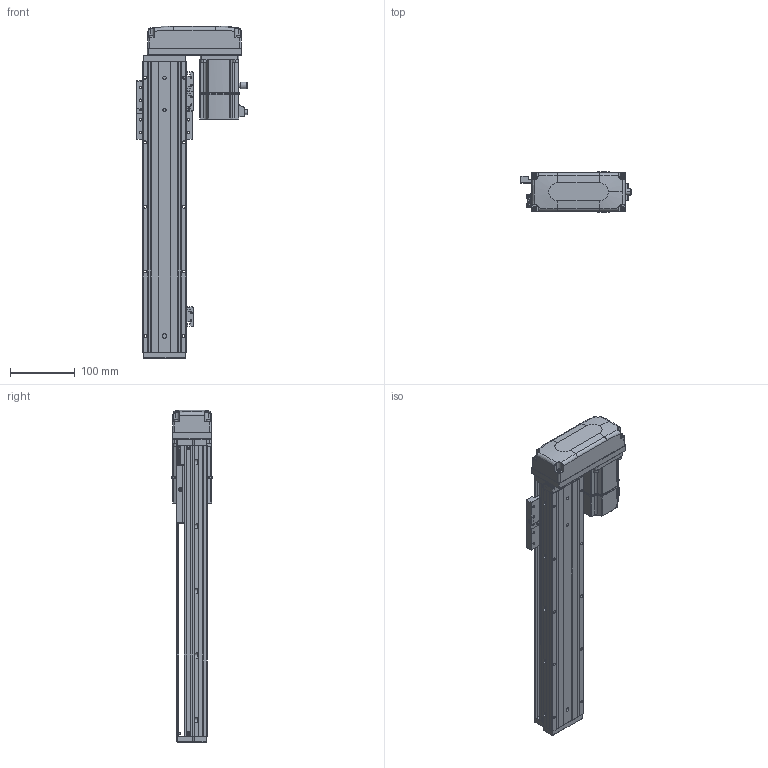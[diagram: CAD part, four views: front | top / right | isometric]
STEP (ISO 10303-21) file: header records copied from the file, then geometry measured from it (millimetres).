
FILE_DESCRIPTION (( 'STEP AP203' ), '1' );
FILE_NAME ('KTHAL60-300-BL-M20-C4L.step', '2022-12-16T02:05:59', ( '微软用户' ), ( '微软中国' ), 'SwSTEP 2.0', 'SolidWorks 2020', '' );
FILE_SCHEMA (( 'CONFIG_CONTROL_DESIGN' ));
Length unit declared in the file: millimetre
Products named in the file (17): KTHA60-005; GBT77-2000M3-3; GB¨uT 70.2-M3¡Á5_M3¡Á6; GBT 70.1-M3℅6; GBT 70.3-M3℅6; CTHA60-016; EE_SX911P_R; _X2_4E0983F1_X0_200W_1; KTHA60-001_450; CTHA60-017; CTHA60-015-4_CTHA60-015-4; KTHLA60-002; CTHA60-021; GTH80-026; KTHA60-004; GBT 70.1-M4×16; KTHAL60-300-BL-M20-C4L
Assembly tree (45 placements, depth 2):
  KTHAL60-300-BL-M20-C4L
    KTHA60-001_450
    KTHLA60-002
    KTHA60-004
    KTHA60-005
    GB¨uT 70.2-M3¡Á5_M3¡Á6  x5
    GBT 70.3-M3℅6  x4
    EE_SX911P_R  x3
    CTHA60-017  x3
    CTHA60-021  x2
    GBT 70.1-M4×16  x8
    GBT77-2000M3-3  x6
    GBT 70.1-M3℅6  x6
    CTHA60-016
    _X2_4E0983F1_X0_200W_1
    CTHA60-015-4_CTHA60-015-4
    GTH80-026
Bounding box: 172.2 x 62.42 x 514 mm (x, y, z)
Volume: 1595974.3 mm3; surface area: 329857.6 mm2
Topology: 48 solids, 48 shells, 2311 faces, 5492 edges, 3373 vertices
Faces by surface type: plane 1235, cylinder 611, cone 266, bspline 103, torus 82, sphere 14
Entity records: 44601 total; most frequent: CARTESIAN_POINT 10042, DIRECTION 6701, ORIENTED_EDGE 6608, EDGE_CURVE 3304, AXIS2_PLACEMENT_3D 2316, LINE 2069, VECTOR 2069, VERTEX_POINT 2057
